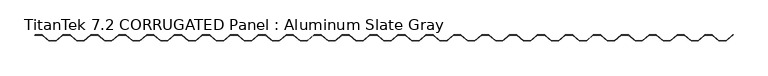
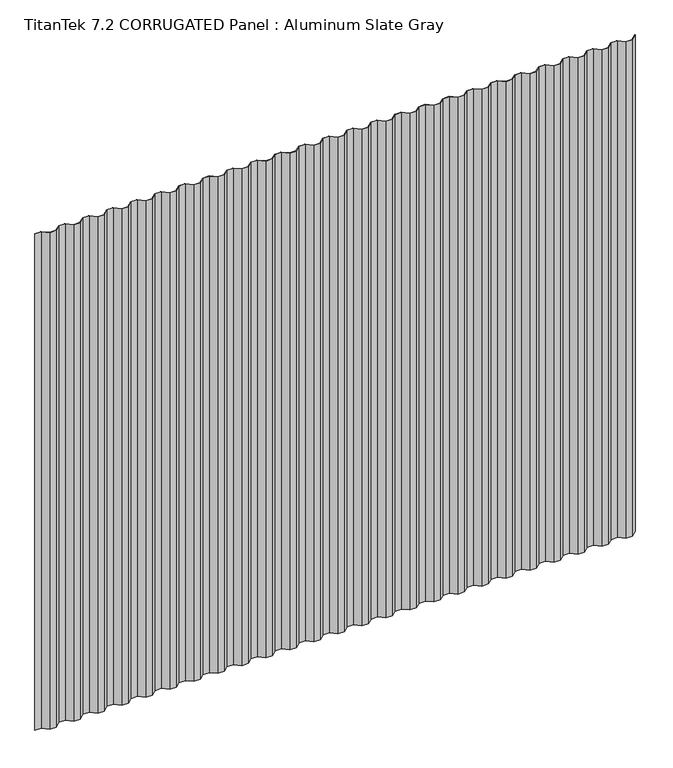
"""IFC4 building model written with IfcOpenShell, lengths in millimetres: proxy geometry, TitanTek 7.2 CORRUGATED Panel : Aluminum Slate Gray."""

from ifc_helpers import new_model, si_unit, origin, origin_with_axes, place, context, project, spatial, polyline, outline, extrude, source, transform, mapped, element, save


def titantek_7_2_corrugated_panel_aluminum_slate_gray_cb239071(model_context):
    return source(origin(), model_context, "Body", "SweptSolid", [
        extrude(outline(polyline([(3705.2770628, 0.0), (3749.3105676, -37.1078125), (3796.2618664, -37.1078125), (3840.1165539, 0.0), (3888.1570628, 0.0), (3932.1905676, -37.1078125), (3979.1418664, -37.1078125), (4022.9965539, 0.0), (4071.0370628, 0.0), (4115.0705676, -37.1078125), (4162.0218664, -37.1078125), (4205.8765539, 0.0), (4253.9170628, 0.0), (4297.9505676, -37.1078125), (4344.9018664, -37.1078125), (4388.7565539, 0.0), (4436.7970628, 0.0), (4480.8305676, -37.1078125), (4527.7818664, -37.1078125), (4571.6365539, 0.0), (4573.1725852, 0.0), (4528.1453125, -38.1), (4480.4682497, -38.1), (4436.4347449, -0.9921875), (4389.12, -0.9921875), (4345.2653125, -38.1), (4297.5882497, -38.1), (4253.5547449, -0.9921875), (4206.24, -0.9921875), (4162.3853125, -38.1), (4114.7082497, -38.1), (4070.6747449, -0.9921875), (4023.36, -0.9921875), (3979.5053125, -38.1), (3931.8282497, -38.1), (3887.7947449, -0.9921875), (3840.48, -0.9921875), (3796.6253125, -38.1), (3748.9482497, -38.1), (3704.9147449, -0.9921875), (3657.6, -0.9921875), (3658.7725852, 0.0), (3705.2770628, 0.0)])), origin_with_axes(), (0.0, 0.0, 1.0), 4000.0),
        extrude(outline(polyline([(2790.8770628, 0.0), (2834.9105676, -37.1078125), (2881.8618664, -37.1078125), (2925.7165539, 0.0), (2973.7570628, 0.0), (3017.7905676, -37.1078125), (3064.7418664, -37.1078125), (3108.5965539, 0.0), (3156.6370628, 0.0), (3200.6705676, -37.1078125), (3247.6218664, -37.1078125), (3291.4765539, 0.0), (3339.5170628, 0.0), (3383.5505676, -37.1078125), (3430.5018664, -37.1078125), (3474.3565539, 0.0), (3522.3970628, 0.0), (3566.4305676, -37.1078125), (3613.3818664, -37.1078125), (3657.2365539, 0.0), (3658.7725852, 0.0), (3613.7453125, -38.1), (3566.0682497, -38.1), (3522.0347449, -0.9921875), (3474.72, -0.9921875), (3430.8653125, -38.1), (3383.1882497, -38.1), (3339.1547449, -0.9921875), (3291.84, -0.9921875), (3247.9853125, -38.1), (3200.3082497, -38.1), (3156.2747449, -0.9921875), (3108.96, -0.9921875), (3065.1053125, -38.1), (3017.4282497, -38.1), (2973.3947449, -0.9921875), (2926.08, -0.9921875), (2882.2253125, -38.1), (2834.5482497, -38.1), (2790.5147449, -0.9921875), (2743.2, -0.9921875), (2744.3725852, 0.0), (2790.8770628, 0.0)])), origin_with_axes(), (0.0, 0.0, 1.0), 4000.0),
        extrude(outline(polyline([(1876.4770628, 0.0), (1920.5105676, -37.1078125), (1967.4618664, -37.1078125), (2011.3165539, 0.0), (2059.3570628, 0.0), (2103.3905676, -37.1078125), (2150.3418664, -37.1078125), (2194.1965539, 0.0), (2242.2370628, 0.0), (2286.2705676, -37.1078125), (2333.2218664, -37.1078125), (2377.0765539, 0.0), (2425.1170628, 0.0), (2469.1505676, -37.1078125), (2516.1018664, -37.1078125), (2559.9565539, 0.0), (2607.9970628, 0.0), (2652.0305676, -37.1078125), (2698.9818664, -37.1078125), (2742.8365539, 0.0), (2744.3725852, 0.0), (2699.3453125, -38.1), (2651.6682497, -38.1), (2607.6347449, -0.9921875), (2560.32, -0.9921875), (2516.4653125, -38.1), (2468.7882497, -38.1), (2424.7547449, -0.9921875), (2377.44, -0.9921875), (2333.5853125, -38.1), (2285.9082497, -38.1), (2241.8747449, -0.9921875), (2194.56, -0.9921875), (2150.7053125, -38.1), (2103.0282497, -38.1), (2058.9947449, -0.9921875), (2011.68, -0.9921875), (1967.8253125, -38.1), (1920.1482497, -38.1), (1876.1147449, -0.9921875), (1828.8, -0.9921875), (1829.9725852, 0.0), (1876.4770628, 0.0)])), origin_with_axes(), (0.0, 0.0, 1.0), 4000.0),
        extrude(outline(polyline([(962.0770628, 0.0), (1006.1105676, -37.1078125), (1053.0618664, -37.1078125), (1096.9165539, 0.0), (1144.9570628, 0.0), (1188.9905676, -37.1078125), (1235.9418664, -37.1078125), (1279.7965539, 0.0), (1327.8370628, 0.0), (1371.8705676, -37.1078125), (1418.8218664, -37.1078125), (1462.6765539, 0.0), (1510.7170628, 0.0), (1554.7505676, -37.1078125), (1601.7018664, -37.1078125), (1645.5565539, 0.0), (1693.5970628, 0.0), (1737.6305676, -37.1078125), (1784.5818664, -37.1078125), (1828.4365539, 0.0), (1829.9725852, 0.0), (1784.9453125, -38.1), (1737.2682497, -38.1), (1693.2347449, -0.9921875), (1645.92, -0.9921875), (1602.0653125, -38.1), (1554.3882497, -38.1), (1510.3547449, -0.9921875), (1463.04, -0.9921875), (1419.1853125, -38.1), (1371.5082497, -38.1), (1327.4747449, -0.9921875), (1280.16, -0.9921875), (1236.3053125, -38.1), (1188.6282497, -38.1), (1144.5947449, -0.9921875), (1097.28, -0.9921875), (1053.4253125, -38.1), (1005.7482497, -38.1), (961.7147449, -0.9921875), (914.4, -0.9921875), (915.5725852, 0.0), (962.0770628, 0.0)])), origin_with_axes(), (0.0, 0.0, 1.0), 4000.0),
        extrude(outline(polyline([(47.6770628, 0.0), (91.7105676, -37.1078125), (138.6618664, -37.1078125), (182.5165539, 0.0), (230.5570628, 0.0), (274.5905676, -37.1078125), (321.5418664, -37.1078125), (365.3965539, 0.0), (413.4370628, 0.0), (457.4705676, -37.1078125), (504.4218664, -37.1078125), (548.2765539, 0.0), (596.3170628, 0.0), (640.3505676, -37.1078125), (687.3018664, -37.1078125), (731.1565539, 0.0), (779.1970628, 0.0), (823.2305676, -37.1078125), (870.1818664, -37.1078125), (914.0365539, 0.0), (915.5725852, 0.0), (870.5453125, -38.1), (822.8682497, -38.1), (778.8347449, -0.9921875), (731.52, -0.9921875), (687.6653125, -38.1), (639.9882497, -38.1), (595.9547449, -0.9921875), (548.64, -0.9921875), (504.7853125, -38.1), (457.1082497, -38.1), (413.0747449, -0.9921875), (365.76, -0.9921875), (321.9053125, -38.1), (274.2282497, -38.1), (230.1947449, -0.9921875), (182.88, -0.9921875), (139.0253125, -38.1), (91.3482497, -38.1), (47.3147449, -0.9921875), (0.0, -0.9921875), (1.1725852, 0.0), (47.6770628, 0.0)])), origin_with_axes(), (0.0, 0.0, 1.0), 4000.0),
    ])


if __name__ == "__main__":
    model = new_model("IFC4")
    model_context = context("Model", 3, world=origin())
    ifc_project = project(units=[si_unit("LENGTHUNIT", "METRE", prefix="MILLI")], contexts=[model_context])
    site = spatial("IfcSite", under=ifc_project)
    building = spatial("IfcBuilding", under=site)
    placement = place(None, origin())
    titantek_7_2_corrugated_panel_aluminum_slate_gray_shape = titantek_7_2_corrugated_panel_aluminum_slate_gray_cb239071(model_context)
    element("IfcBuildingElementProxy", 1, Name="TitanTek 7.2 CORRUGATED Panel : Aluminum Slate Gray", ObjectType="TitanTek 7.2 CORRUGATED Panel : Aluminum Slate Gray", at=placement, inside=building, context=model_context, shape_type="MappedRepresentation", body=[
        mapped(titantek_7_2_corrugated_panel_aluminum_slate_gray_shape, transform((0.0, 0.0, 0.0), x_axis=(1.0, 0.0, 0.0), y_axis=(0.0, 1.0, 0.0), z_axis=(0.0, 0.0, 1.0))),
    ])
    save(model, "model.ifc")
